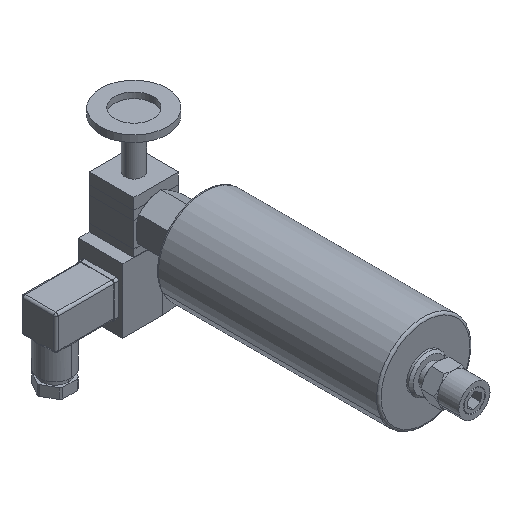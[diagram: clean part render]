
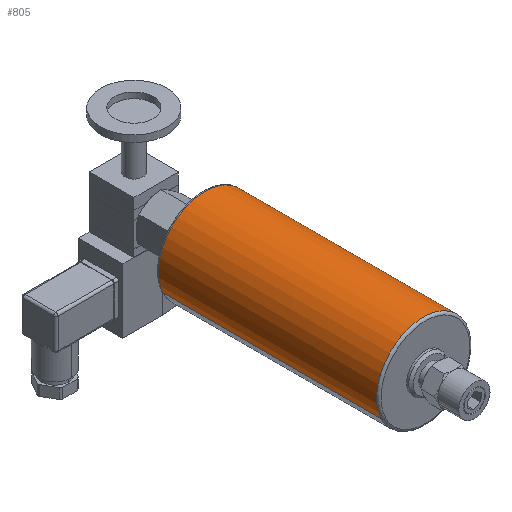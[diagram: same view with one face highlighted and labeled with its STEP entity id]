
A CAD part, isometric view. The second image highlights one B-rep face of the part: STEP entity #805.
In plain terms, the highlighted cylindrical face has radius 21 mm (diameter 42 mm), a partial arc.
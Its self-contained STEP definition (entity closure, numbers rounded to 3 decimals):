
#397 = CARTESIAN_POINT ( 'NONE',  ( 6.855, 25.381, -112.629 ) ) ;
#430 = EDGE_LOOP ( 'NONE', ( #6846, #2169, #5693, #2697 ) ) ;
#461 = CARTESIAN_POINT ( 'NONE',  ( 6.855, -72.619, -112.629 ) ) ;
#805 = ADVANCED_FACE ( 'NONE', ( #2720 ), #6252, .T. ) ;
#1100 = VECTOR ( 'NONE', #3074, 1000. ) ;
#1250 = DIRECTION ( 'NONE',  ( 0.898, 0., 0.44 ) ) ;
#1352 = DIRECTION ( 'NONE',  ( 0.898, 0., 0.44 ) ) ;
#1575 = CARTESIAN_POINT ( 'NONE',  ( 25.715, 26.381, -103.393 ) ) ;
#1632 = VERTEX_POINT ( 'NONE', #397 ) ;
#1764 = CIRCLE ( 'NONE', #3704, 21. ) ;
#2169 = ORIENTED_EDGE ( 'NONE', *, *, #6842, .T. ) ;
#2574 = CARTESIAN_POINT ( 'NONE',  ( 25.715, -72.619, -103.393 ) ) ;
#2697 = ORIENTED_EDGE ( 'NONE', *, *, #7361, .T. ) ;
#2720 = FACE_OUTER_BOUND ( 'NONE', #430, .T. ) ;
#2731 = CIRCLE ( 'NONE', #7256, 21. ) ;
#2830 = VECTOR ( 'NONE', #7122, 1000. ) ;
#2908 = VERTEX_POINT ( 'NONE', #461 ) ;
#2961 = LINE ( 'NONE', #5296, #1100 ) ;
#3040 = EDGE_CURVE ( 'NONE', #1632, #2908, #2961, .T. ) ;
#3074 = DIRECTION ( 'NONE',  ( 0., -1., 0. ) ) ;
#3128 = CARTESIAN_POINT ( 'NONE',  ( 44.575, 26.381, -94.157 ) ) ;
#3328 = DIRECTION ( 'NONE',  ( 0., -1., 0. ) ) ;
#3704 = AXIS2_PLACEMENT_3D ( 'NONE', #2574, #5532, #1352 ) ;
#4013 = AXIS2_PLACEMENT_3D ( 'NONE', #1575, #3328, #6936 ) ;
#4274 = EDGE_CURVE ( 'NONE', #6815, #5703, #6049, .T. ) ;
#4695 = DIRECTION ( 'NONE',  ( 0., -1., 0. ) ) ;
#5119 = CARTESIAN_POINT ( 'NONE',  ( 44.575, -72.619, -94.157 ) ) ;
#5156 = CARTESIAN_POINT ( 'NONE',  ( 44.575, 25.381, -94.157 ) ) ;
#5296 = CARTESIAN_POINT ( 'NONE',  ( 6.855, 26.381, -112.629 ) ) ;
#5382 = CARTESIAN_POINT ( 'NONE',  ( 25.715, 25.381, -103.393 ) ) ;
#5532 = DIRECTION ( 'NONE',  ( 0., 1., 0. ) ) ;
#5693 = ORIENTED_EDGE ( 'NONE', *, *, #3040, .T. ) ;
#5703 = VERTEX_POINT ( 'NONE', #5119 ) ;
#6049 = LINE ( 'NONE', #3128, #2830 ) ;
#6252 = CYLINDRICAL_SURFACE ( 'NONE', #4013, 21. ) ;
#6815 = VERTEX_POINT ( 'NONE', #5156 ) ;
#6842 = EDGE_CURVE ( 'NONE', #6815, #1632, #2731, .T. ) ;
#6846 = ORIENTED_EDGE ( 'NONE', *, *, #4274, .F. ) ;
#6936 = DIRECTION ( 'NONE',  ( -0.898, 0., -0.44 ) ) ;
#7122 = DIRECTION ( 'NONE',  ( 0., -1., 0. ) ) ;
#7256 = AXIS2_PLACEMENT_3D ( 'NONE', #5382, #4695, #1250 ) ;
#7361 = EDGE_CURVE ( 'NONE', #2908, #5703, #1764, .T. ) ;
